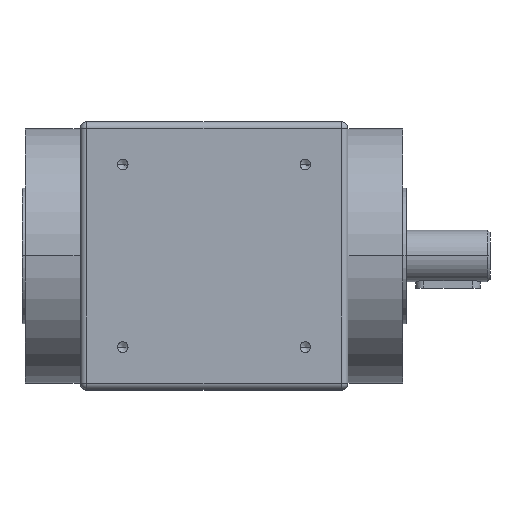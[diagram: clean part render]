
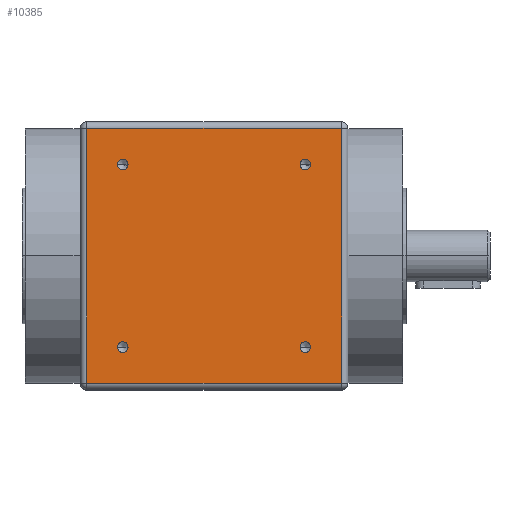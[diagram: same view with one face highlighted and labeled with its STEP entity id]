
A CAD part, top view. The second image highlights one B-rep face of the part: STEP entity #10385.
In plain terms, the highlighted planar face has unit normal (0, 0, 1).
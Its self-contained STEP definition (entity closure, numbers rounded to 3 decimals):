
#3 = DIRECTION ( 'NONE',  ( 0., 0., 1. ) ) ;
#736 = AXIS2_PLACEMENT_3D ( 'NONE', #13056, #1435, #15001 ) ;
#785 = LINE ( 'NONE', #12546, #5304 ) ;
#941 = DIRECTION ( 'NONE',  ( 0., -1., 0. ) ) ;
#1098 = DIRECTION ( 'NONE',  ( 0., 0., 1. ) ) ;
#1435 = DIRECTION ( 'NONE',  ( 0., 0., 1. ) ) ;
#1452 = DIRECTION ( 'NONE',  ( 0., 0., 1. ) ) ;
#1479 = CARTESIAN_POINT ( 'NONE',  ( 26.634, -28.284, 83. ) ) ;
#1791 = DIRECTION ( 'NONE',  ( 1., 0., 0. ) ) ;
#2293 = ORIENTED_EDGE ( 'NONE', *, *, #9936, .F. ) ;
#2427 = FACE_BOUND ( 'NONE', #11487, .T. ) ;
#2520 = EDGE_LOOP ( 'NONE', ( #24758, #18568 ) ) ;
#2830 = CARTESIAN_POINT ( 'NONE',  ( -29.934, -28.284, 83. ) ) ;
#2943 = ORIENTED_EDGE ( 'NONE', *, *, #19549, .T. ) ;
#3018 = VERTEX_POINT ( 'NONE', #7884 ) ;
#3318 = DIRECTION ( 'NONE',  ( 0., 0., 1. ) ) ;
#4074 = VERTEX_POINT ( 'NONE', #8461 ) ;
#5011 = VERTEX_POINT ( 'NONE', #1479 ) ;
#5304 = VECTOR ( 'NONE', #941, 1000. ) ;
#5821 = CARTESIAN_POINT ( 'NONE',  ( 39.5, 39.5, 83. ) ) ;
#5936 = AXIS2_PLACEMENT_3D ( 'NONE', #14948, #3318, #16866 ) ;
#6348 = CIRCLE ( 'NONE', #17358, 1.65 ) ;
#6726 = DIRECTION ( 'NONE',  ( 1., 0., 0. ) ) ;
#7072 = DIRECTION ( 'NONE',  ( 1., 0., 0. ) ) ;
#7074 = VERTEX_POINT ( 'NONE', #2830 ) ;
#7110 = DIRECTION ( 'NONE',  ( 0., 0., 1. ) ) ;
#7370 = CARTESIAN_POINT ( 'NONE',  ( 26.634, 28.284, 83. ) ) ;
#7396 = CIRCLE ( 'NONE', #12500, 1.65 ) ;
#7769 = DIRECTION ( 'NONE',  ( 0., 1., 0. ) ) ;
#7870 = AXIS2_PLACEMENT_3D ( 'NONE', #8123, #21610, #10087 ) ;
#7884 = CARTESIAN_POINT ( 'NONE',  ( -29.934, 28.284, 83. ) ) ;
#7919 = VERTEX_POINT ( 'NONE', #20169 ) ;
#8023 = EDGE_CURVE ( 'NONE', #15196, #16248, #18551, .T. ) ;
#8123 = CARTESIAN_POINT ( 'NONE',  ( 28.284, 28.284, 83. ) ) ;
#8132 = ORIENTED_EDGE ( 'NONE', *, *, #16788, .T. ) ;
#8197 = FACE_BOUND ( 'NONE', #24267, .T. ) ;
#8317 = CARTESIAN_POINT ( 'NONE',  ( 39.5, 39.5, 83. ) ) ;
#8461 = CARTESIAN_POINT ( 'NONE',  ( -39.5, -39.5, 83. ) ) ;
#8973 = CIRCLE ( 'NONE', #11920, 1.65 ) ;
#9061 = LINE ( 'NONE', #5821, #23815 ) ;
#9065 = PLANE ( 'NONE',  #736 ) ;
#9302 = EDGE_CURVE ( 'NONE', #7919, #7074, #8973, .T. ) ;
#9830 = CARTESIAN_POINT ( 'NONE',  ( -39.5, 39.5, 83. ) ) ;
#9931 = CIRCLE ( 'NONE', #5936, 1.65 ) ;
#9936 = EDGE_CURVE ( 'NONE', #10345, #5011, #20635, .T. ) ;
#10087 = DIRECTION ( 'NONE',  ( 1., 0., 0. ) ) ;
#10345 = VERTEX_POINT ( 'NONE', #10863 ) ;
#10385 = ADVANCED_FACE ( 'NONE', ( #8197, #12760, #2427, #22373, #17271 ), #9065, .T. ) ;
#10863 = CARTESIAN_POINT ( 'NONE',  ( 29.934, -28.284, 83. ) ) ;
#11254 = EDGE_CURVE ( 'NONE', #18441, #15196, #9061, .T. ) ;
#11458 = VERTEX_POINT ( 'NONE', #24021 ) ;
#11487 = EDGE_LOOP ( 'NONE', ( #2293, #21777 ) ) ;
#11581 = CARTESIAN_POINT ( 'NONE',  ( 28.284, 28.284, 83. ) ) ;
#11688 = VECTOR ( 'NONE', #6726, 1000. ) ;
#11773 = DIRECTION ( 'NONE',  ( -1., 0., 0. ) ) ;
#11920 = AXIS2_PLACEMENT_3D ( 'NONE', #19394, #18641, #7072 ) ;
#12500 = AXIS2_PLACEMENT_3D ( 'NONE', #11581, #3, #13549 ) ;
#12546 = CARTESIAN_POINT ( 'NONE',  ( -39.5, 39.5, 83. ) ) ;
#12709 = CARTESIAN_POINT ( 'NONE',  ( 28.284, -28.284, 83. ) ) ;
#12760 = FACE_BOUND ( 'NONE', #2520, .T. ) ;
#13056 = CARTESIAN_POINT ( 'NONE',  ( -39.5, 39.5, 83. ) ) ;
#13081 = CARTESIAN_POINT ( 'NONE',  ( 28.284, -28.284, 83. ) ) ;
#13422 = DIRECTION ( 'NONE',  ( 0., 0., 1. ) ) ;
#13549 = DIRECTION ( 'NONE',  ( 1., 0., 0. ) ) ;
#13599 = EDGE_CURVE ( 'NONE', #11458, #3018, #6348, .T. ) ;
#14158 = ORIENTED_EDGE ( 'NONE', *, *, #20188, .F. ) ;
#14269 = EDGE_CURVE ( 'NONE', #15015, #15845, #14856, .T. ) ;
#14664 = DIRECTION ( 'NONE',  ( 1., 0., 0. ) ) ;
#14856 = CIRCLE ( 'NONE', #7870, 1.65 ) ;
#14891 = EDGE_CURVE ( 'NONE', #7074, #7919, #9931, .T. ) ;
#14948 = CARTESIAN_POINT ( 'NONE',  ( -28.284, -28.284, 83. ) ) ;
#15001 = DIRECTION ( 'NONE',  ( 1., 0., 0. ) ) ;
#15015 = VERTEX_POINT ( 'NONE', #20967 ) ;
#15020 = DIRECTION ( 'NONE',  ( 1., 0., 0. ) ) ;
#15025 = CIRCLE ( 'NONE', #16084, 1.65 ) ;
#15196 = VERTEX_POINT ( 'NONE', #8317 ) ;
#15487 = AXIS2_PLACEMENT_3D ( 'NONE', #18683, #7110, #20632 ) ;
#15845 = VERTEX_POINT ( 'NONE', #7370 ) ;
#15888 = EDGE_CURVE ( 'NONE', #15845, #15015, #7396, .T. ) ;
#16084 = AXIS2_PLACEMENT_3D ( 'NONE', #12709, #1098, #14664 ) ;
#16248 = VERTEX_POINT ( 'NONE', #24448 ) ;
#16788 = EDGE_CURVE ( 'NONE', #16248, #4074, #785, .T. ) ;
#16837 = LINE ( 'NONE', #24004, #11688 ) ;
#16845 = EDGE_CURVE ( 'NONE', #5011, #10345, #15025, .T. ) ;
#16866 = DIRECTION ( 'NONE',  ( 1., 0., 0. ) ) ;
#17271 = FACE_OUTER_BOUND ( 'NONE', #23294, .T. ) ;
#17358 = AXIS2_PLACEMENT_3D ( 'NONE', #24926, #13422, #1791 ) ;
#18015 = CARTESIAN_POINT ( 'NONE',  ( 39.5, -39.5, 83. ) ) ;
#18212 = ORIENTED_EDGE ( 'NONE', *, *, #13599, .F. ) ;
#18294 = CIRCLE ( 'NONE', #15487, 1.65 ) ;
#18441 = VERTEX_POINT ( 'NONE', #18015 ) ;
#18497 = ORIENTED_EDGE ( 'NONE', *, *, #11254, .T. ) ;
#18551 = LINE ( 'NONE', #9830, #23048 ) ;
#18568 = ORIENTED_EDGE ( 'NONE', *, *, #15888, .F. ) ;
#18641 = DIRECTION ( 'NONE',  ( 0., 0., 1. ) ) ;
#18683 = CARTESIAN_POINT ( 'NONE',  ( -28.284, 28.284, 83. ) ) ;
#19394 = CARTESIAN_POINT ( 'NONE',  ( -28.284, -28.284, 83. ) ) ;
#19471 = AXIS2_PLACEMENT_3D ( 'NONE', #13081, #1452, #15020 ) ;
#19549 = EDGE_CURVE ( 'NONE', #4074, #18441, #16837, .T. ) ;
#20169 = CARTESIAN_POINT ( 'NONE',  ( -26.634, -28.284, 83. ) ) ;
#20188 = EDGE_CURVE ( 'NONE', #3018, #11458, #18294, .T. ) ;
#20632 = DIRECTION ( 'NONE',  ( 1., 0., 0. ) ) ;
#20635 = CIRCLE ( 'NONE', #19471, 1.65 ) ;
#20967 = CARTESIAN_POINT ( 'NONE',  ( 29.934, 28.284, 83. ) ) ;
#21343 = ORIENTED_EDGE ( 'NONE', *, *, #14891, .F. ) ;
#21610 = DIRECTION ( 'NONE',  ( 0., 0., 1. ) ) ;
#21777 = ORIENTED_EDGE ( 'NONE', *, *, #16845, .F. ) ;
#22373 = FACE_BOUND ( 'NONE', #23199, .T. ) ;
#22633 = ORIENTED_EDGE ( 'NONE', *, *, #8023, .T. ) ;
#23048 = VECTOR ( 'NONE', #11773, 1000. ) ;
#23199 = EDGE_LOOP ( 'NONE', ( #24198, #21343 ) ) ;
#23294 = EDGE_LOOP ( 'NONE', ( #18497, #22633, #8132, #2943 ) ) ;
#23815 = VECTOR ( 'NONE', #7769, 1000. ) ;
#24004 = CARTESIAN_POINT ( 'NONE',  ( -39.5, -39.5, 83. ) ) ;
#24021 = CARTESIAN_POINT ( 'NONE',  ( -26.634, 28.284, 83. ) ) ;
#24198 = ORIENTED_EDGE ( 'NONE', *, *, #9302, .F. ) ;
#24267 = EDGE_LOOP ( 'NONE', ( #18212, #14158 ) ) ;
#24448 = CARTESIAN_POINT ( 'NONE',  ( -39.5, 39.5, 83. ) ) ;
#24758 = ORIENTED_EDGE ( 'NONE', *, *, #14269, .F. ) ;
#24926 = CARTESIAN_POINT ( 'NONE',  ( -28.284, 28.284, 83. ) ) ;
